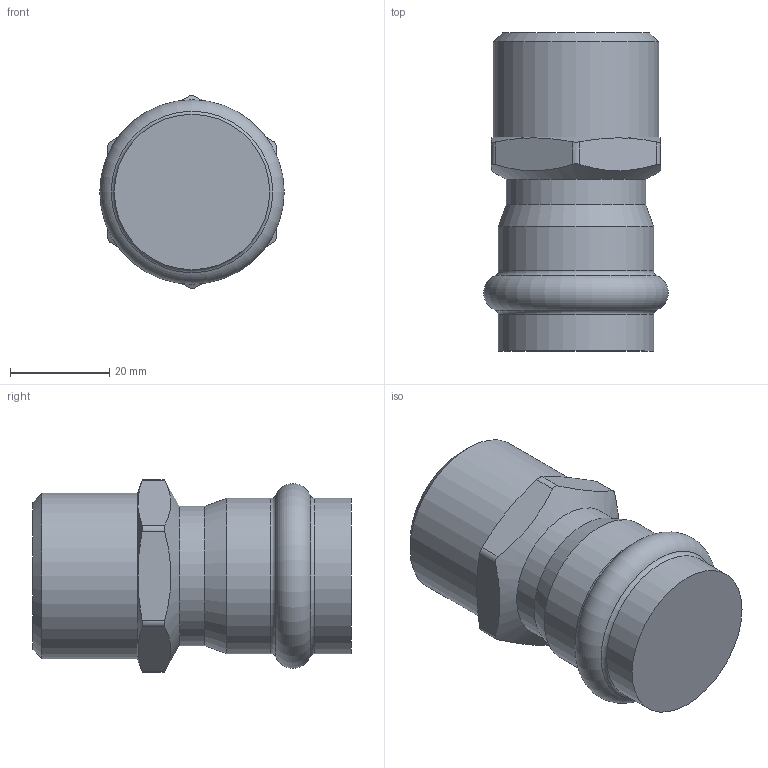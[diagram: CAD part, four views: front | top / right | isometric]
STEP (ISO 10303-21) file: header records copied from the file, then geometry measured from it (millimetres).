
FILE_DESCRIPTION(('STEP AP203'), '1');
FILE_NAME('VTi.901.I.002806', '', ('UNSPECIFIED'), ('UNSPECIFIED'), 'C3D Converter', 'C3D Toolkit', '');
FILE_SCHEMA(('CONFIG_CONTROL_DESIGN'));
Length unit declared in the file: millimetre
Bounding box: 37.1 x 64 x 38.79 mm (x, y, z)
Volume: 53157.5 mm3; surface area: 8672.7 mm2
Topology: 1 solids, 1 shells, 25 faces, 61 edges, 38 vertices
Faces by surface type: cylinder 10, plane 8, cone 4, torus 3
Full cylindrical faces by diameter (mm): 28 x1, 31.26 x2, 33.249 x1
Entity records: 1554 total; most frequent: CARTESIAN_POINT 1012, ORIENTED_EDGE 100, DIRECTION 88, EDGE_CURVE 50, AXIS2_PLACEMENT_3D 38, VERTEX_POINT 38, EDGE_LOOP 36, B_SPLINE_CURVE_WITH_KNOTS 26
